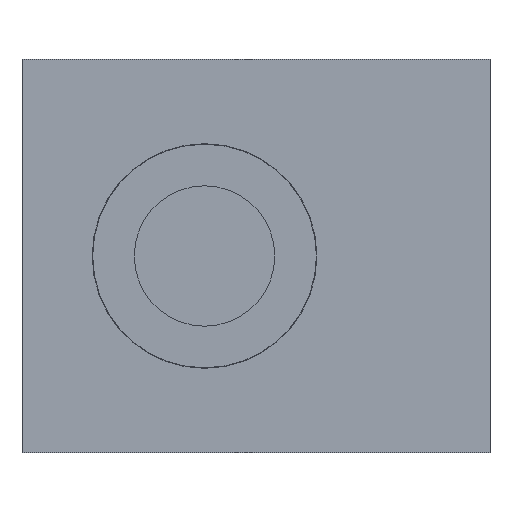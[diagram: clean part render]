
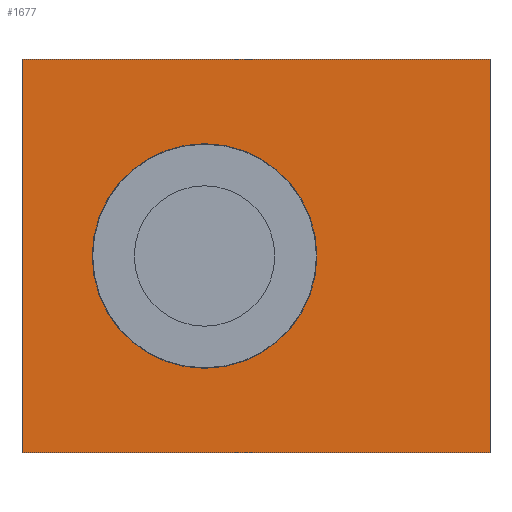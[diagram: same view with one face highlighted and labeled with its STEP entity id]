
A CAD part, front view. The second image highlights one B-rep face of the part: STEP entity #1677.
In plain terms, the highlighted planar face has unit normal (0, -1, 0).
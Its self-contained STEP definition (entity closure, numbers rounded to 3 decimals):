
#63 = CARTESIAN_POINT ( 'NONE',  ( 50., 0., 42. ) ) ;
#110 = FACE_OUTER_BOUND ( 'NONE', #929, .T. ) ;
#153 = CARTESIAN_POINT ( 'NONE',  ( 19.5, 0., 21. ) ) ;
#157 = DIRECTION ( 'NONE',  ( 0., -1., 0. ) ) ;
#167 = DIRECTION ( 'NONE',  ( 0., 0., -1. ) ) ;
#184 = ORIENTED_EDGE ( 'NONE', *, *, #1239, .T. ) ;
#220 = VECTOR ( 'NONE', #1809, 1000. ) ;
#240 = VERTEX_POINT ( 'NONE', #430 ) ;
#241 = DIRECTION ( 'NONE',  ( 1., 0., 0. ) ) ;
#268 = CARTESIAN_POINT ( 'NONE',  ( 0., 0., 42. ) ) ;
#399 = VECTOR ( 'NONE', #241, 1000. ) ;
#404 = CARTESIAN_POINT ( 'NONE',  ( 0., 0., 0. ) ) ;
#406 = LINE ( 'NONE', #404, #220 ) ;
#422 = LINE ( 'NONE', #268, #399 ) ;
#430 = CARTESIAN_POINT ( 'NONE',  ( 0., 0., 0. ) ) ;
#609 = EDGE_LOOP ( 'NONE', ( #1596, #1349 ) ) ;
#619 = ORIENTED_EDGE ( 'NONE', *, *, #1619, .F. ) ;
#636 = AXIS2_PLACEMENT_3D ( 'NONE', #153, #157, #167 ) ;
#653 = DIRECTION ( 'NONE',  ( 0., 0., 1. ) ) ;
#661 = CARTESIAN_POINT ( 'NONE',  ( 50., 0., 0. ) ) ;
#678 = CARTESIAN_POINT ( 'NONE',  ( 19.5, 0., 33. ) ) ;
#679 = EDGE_CURVE ( 'NONE', #1210, #987, #943, .T. ) ;
#687 = CARTESIAN_POINT ( 'NONE',  ( 0., 0., 42. ) ) ;
#777 = PLANE ( 'NONE',  #893 ) ;
#789 = DIRECTION ( 'NONE',  ( 0., 1., 0. ) ) ;
#809 = VECTOR ( 'NONE', #1831, 1000. ) ;
#830 = VERTEX_POINT ( 'NONE', #661 ) ;
#893 = AXIS2_PLACEMENT_3D ( 'NONE', #687, #789, #653 ) ;
#929 = EDGE_LOOP ( 'NONE', ( #945, #619, #1820, #184 ) ) ;
#943 = CIRCLE ( 'NONE', #636, 12. ) ;
#945 = ORIENTED_EDGE ( 'NONE', *, *, #1467, .T. ) ;
#987 = VERTEX_POINT ( 'NONE', #1333 ) ;
#990 = VERTEX_POINT ( 'NONE', #1403 ) ;
#1210 = VERTEX_POINT ( 'NONE', #678 ) ;
#1239 = EDGE_CURVE ( 'NONE', #990, #240, #1410, .T. ) ;
#1333 = CARTESIAN_POINT ( 'NONE',  ( 19.5, 0., 9. ) ) ;
#1349 = ORIENTED_EDGE ( 'NONE', *, *, #679, .F. ) ;
#1374 = EDGE_CURVE ( 'NONE', #987, #1210, #1515, .T. ) ;
#1393 = CARTESIAN_POINT ( 'NONE',  ( 0., 0., 42. ) ) ;
#1403 = CARTESIAN_POINT ( 'NONE',  ( 0., 0., 42. ) ) ;
#1410 = LINE ( 'NONE', #1393, #809 ) ;
#1453 = DIRECTION ( 'NONE',  ( 0., 0., -1. ) ) ;
#1467 = EDGE_CURVE ( 'NONE', #240, #830, #406, .T. ) ;
#1488 = CARTESIAN_POINT ( 'NONE',  ( 19.5, 0., 21. ) ) ;
#1502 = DIRECTION ( 'NONE',  ( 0., -1., 0. ) ) ;
#1515 = CIRCLE ( 'NONE', #1655, 12. ) ;
#1530 = DIRECTION ( 'NONE',  ( 0., 0., -1. ) ) ;
#1555 = FACE_BOUND ( 'NONE', #609, .T. ) ;
#1596 = ORIENTED_EDGE ( 'NONE', *, *, #1374, .F. ) ;
#1619 = EDGE_CURVE ( 'NONE', #1708, #830, #1824, .T. ) ;
#1655 = AXIS2_PLACEMENT_3D ( 'NONE', #1488, #1502, #1530 ) ;
#1677 = ADVANCED_FACE ( 'NONE', ( #1555, #110 ), #777, .F. ) ;
#1703 = EDGE_CURVE ( 'NONE', #990, #1708, #422, .T. ) ;
#1708 = VERTEX_POINT ( 'NONE', #63 ) ;
#1768 = VECTOR ( 'NONE', #1453, 1000. ) ;
#1800 = CARTESIAN_POINT ( 'NONE',  ( 50., 0., 42. ) ) ;
#1809 = DIRECTION ( 'NONE',  ( 1., 0., 0. ) ) ;
#1820 = ORIENTED_EDGE ( 'NONE', *, *, #1703, .F. ) ;
#1824 = LINE ( 'NONE', #1800, #1768 ) ;
#1831 = DIRECTION ( 'NONE',  ( 0., 0., -1. ) ) ;
